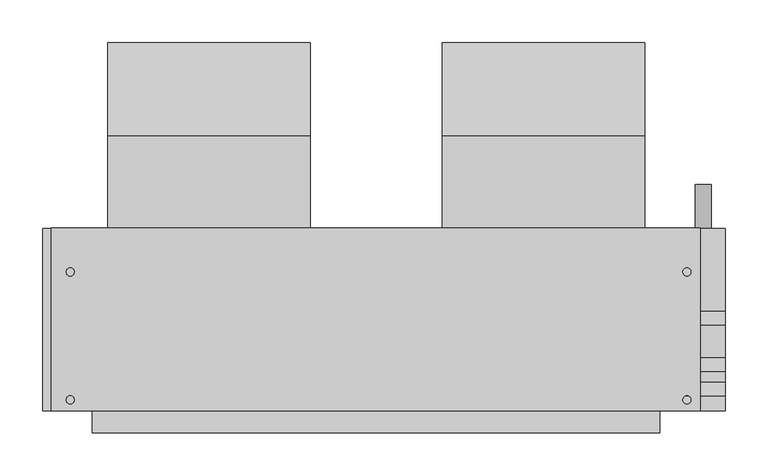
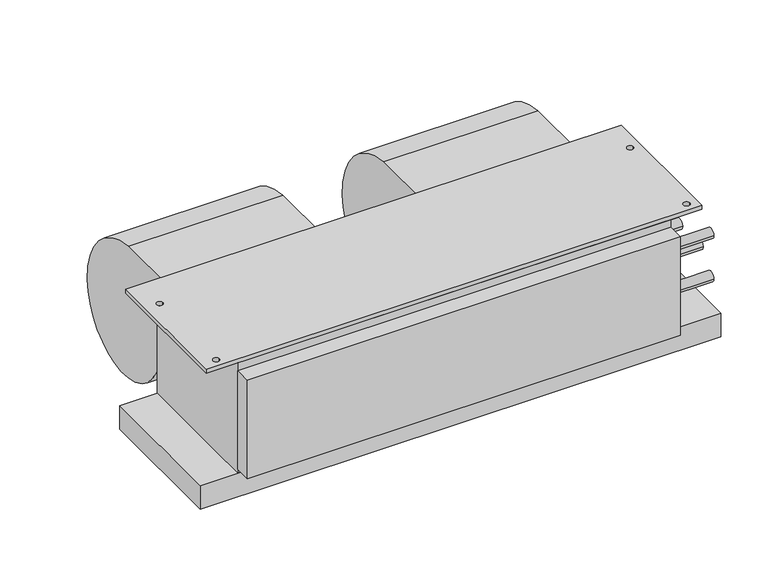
"""IFC4 building model written with IfcOpenShell, lengths in millimetres: proxy geometry, Concealed_Horizontal_Fan_Coil_Unit_-_42CAA_-_CARRIER_-_4-Pipe_RH_2022 : Size 04 - 277v/60Hz/1Ph - 4/1 Coil."""

from ifc_helpers import new_model, si_unit, point, frame, frame_2d, origin, place, context, project, spatial, polyline, circle_curve, trimmed, segment, composite_curve, outline, extrude, source, transform, mapped, element, save


def mechanical_equipment_0b4bd46c(model_context):
    return source(origin(), model_context, "Body", "SweptSolid", [
        extrude(outline(composite_curve([segment(trimmed(circle_curve(frame_2d((-33.198831, -136.0299844)), 117.3559541), [point((-23.8125, -19.05))], [point((84.1375, -138.176))], False, "CARTESIAN"), True, "CONTINUOUS"), segment(trimmed(circle_curve(frame_2d((-11.5977337, -136.4250563)), 95.7512443), [point((84.1375, -138.176))], [point((-23.8125, -231.394))], False, "CARTESIAN"), True, "CONTINUOUS"), segment(trimmed(circle_curve(frame_2d((-11.6288131, -136.6666968)), 95.5076133), [point((-23.8125, -231.394))], [point((-107.1245, -138.176))], False, "CARTESIAN"), True, "CONTINUOUS"), segment(trimmed(circle_curve(frame_2d((-126.2059828, -138.4775816)), 19.0838659), [point((-107.1245, -138.176))], [point((-119.3963373, -120.65))], True, "CARTESIAN"), True, "CONTINUOUS"), segment(polyline([(-119.3963373, -120.65), (-131.7625, -120.65), (-131.7625, -19.05), (-23.8125, -19.05)]), True, "CONTINUOUS")], self_intersect=False)), frame((229.4255, 0.0, 0.0), z_axis=(1.0, 0.0, 0.0), x_axis=(0.0, 1.0, 0.0)), (0.0, 0.0, 1.0), 235.712),
        extrude(outline(composite_curve([segment(trimmed(circle_curve(frame_2d((-33.198831, -136.0299844)), 117.3559541), [point((-23.8125, -19.05))], [point((84.1375, -138.176))], False, "CARTESIAN"), True, "CONTINUOUS"), segment(trimmed(circle_curve(frame_2d((-11.5977337, -136.4250563)), 95.7512443), [point((84.1375, -138.176))], [point((-23.8125, -231.394))], False, "CARTESIAN"), True, "CONTINUOUS"), segment(trimmed(circle_curve(frame_2d((-11.6288131, -136.6666968)), 95.5076133), [point((-23.8125, -231.394))], [point((-107.1245, -138.176))], False, "CARTESIAN"), True, "CONTINUOUS"), segment(trimmed(circle_curve(frame_2d((-126.2059828, -138.4775816)), 19.0838659), [point((-107.1245, -138.176))], [point((-119.3963373, -120.65))], True, "CARTESIAN"), True, "CONTINUOUS"), segment(polyline([(-119.3963373, -120.65), (-131.7625, -120.65), (-131.7625, -19.05), (-23.8125, -19.05)]), True, "CONTINUOUS")], self_intersect=False)), frame((-159.512, 0.0, 0.0), z_axis=(1.0, 0.0, 0.0), x_axis=(0.0, 1.0, 0.0)), (0.0, 0.0, 1.0), 235.712),
        extrude(outline(polyline([(530.225, -131.7625), (530.225, -344.4875), (-225.425, -344.4875), (-225.425, -131.7625), (530.225, -131.7625)]), holes=[composite_curve([segment(trimmed(circle_curve(frame_2d((-203.2, -182.5625)), 4.7625), [point((-207.9625, -182.5625))], [point((-198.4375, -182.5625))], True, "CARTESIAN"), True, "CONTINUOUS"), segment(trimmed(circle_curve(frame_2d((-203.2, -182.5625)), 4.7625), [point((-198.4375, -182.5625))], [point((-207.9625, -182.5625))], True, "CARTESIAN"), True, "CONTINUOUS")], self_intersect=False), composite_curve([segment(trimmed(circle_curve(frame_2d((-203.2, -331.7875)), 4.7625), [point((-207.9625, -331.7875))], [point((-198.4375, -331.7875))], True, "CARTESIAN"), True, "CONTINUOUS"), segment(trimmed(circle_curve(frame_2d((-203.2, -331.7875)), 4.7625), [point((-198.4375, -331.7875))], [point((-207.9625, -331.7875))], True, "CARTESIAN"), True, "CONTINUOUS")], self_intersect=False), composite_curve([segment(trimmed(circle_curve(frame_2d((514.35, -182.5625)), 4.7625), [point((509.5875, -182.5625))], [point((519.1125, -182.5625))], True, "CARTESIAN"), True, "CONTINUOUS"), segment(trimmed(circle_curve(frame_2d((514.35, -182.5625)), 4.7625), [point((519.1125, -182.5625))], [point((509.5875, -182.5625))], True, "CARTESIAN"), True, "CONTINUOUS")], self_intersect=False), composite_curve([segment(trimmed(circle_curve(frame_2d((514.35, -331.7875)), 4.7625), [point((509.5875, -331.7875))], [point((519.1125, -331.7875))], True, "CARTESIAN"), True, "CONTINUOUS"), segment(trimmed(circle_curve(frame_2d((514.35, -331.7875)), 4.7625), [point((519.1125, -331.7875))], [point((509.5875, -331.7875))], True, "CARTESIAN"), True, "CONTINUOUS")], self_intersect=False)]), frame((0.0, 0.0, -6.35), z_axis=(0.0, 0.0, 1.0), x_axis=(1.0, 0.0, 0.0)), (0.0, 0.0, 1.0), 6.35),
        extrude(outline(composite_curve([segment(trimmed(circle_curve(frame_2d((-209.55, 533.4)), 9.525), [point((-209.55, 523.875))], [point((-209.55, 542.925))], False, "CARTESIAN"), True, "CONTINUOUS"), segment(trimmed(circle_curve(frame_2d((-209.55, 533.4)), 9.525), [point((-209.55, 542.925))], [point((-209.55, 523.875))], False, "CARTESIAN"), True, "CONTINUOUS")], self_intersect=False)), frame((0.0, -131.7625, 0.0), z_axis=(0.0, 1.0, 0.0), x_axis=(0.0, 0.0, 1.0)), (0.0, 0.0, 1.0), 50.8),
        extrude(outline(polyline([(482.6, -369.8875), (-177.8, -369.8875), (-177.8, -344.4875), (482.6, -344.4875), (482.6, -369.8875)])), frame((0.0, 0.0, -177.8), z_axis=(0.0, 0.0, 1.0), x_axis=(1.0, 0.0, 0.0)), (0.0, 0.0, 1.0), 158.75),
        extrude(outline(polyline([(558.8, -131.7625), (558.8, -344.4875), (-234.95, -344.4875), (-234.95, -131.7625), (558.8, -131.7625)])), frame((0.0, 0.0, -222.25), z_axis=(0.0, 0.0, 1.0), x_axis=(1.0, 0.0, 0.0)), (0.0, 0.0, 1.0), 38.1),
        extrude(outline(composite_curve([segment(trimmed(circle_curve(frame_2d((-236.5375, -104.775)), 7.9375), [point((-244.475, -104.775))], [point((-228.6, -104.775))], False, "CARTESIAN"), True, "CONTINUOUS"), segment(trimmed(circle_curve(frame_2d((-236.5375, -104.775)), 7.9375), [point((-228.6, -104.775))], [point((-244.475, -104.775))], False, "CARTESIAN"), True, "CONTINUOUS")], self_intersect=False)), frame((482.6, 0.0, 0.0), z_axis=(1.0, 0.0, 0.0), x_axis=(0.0, 1.0, 0.0)), (0.0, 0.0, 1.0), 76.2),
        extrude(outline(composite_curve([segment(trimmed(circle_curve(frame_2d((-290.5125, -104.775)), 7.9375), [point((-298.45, -104.775))], [point((-282.575, -104.775))], False, "CARTESIAN"), True, "CONTINUOUS"), segment(trimmed(circle_curve(frame_2d((-290.5125, -104.775)), 7.9375), [point((-282.575, -104.775))], [point((-298.45, -104.775))], False, "CARTESIAN"), True, "CONTINUOUS")], self_intersect=False)), frame((482.6, 0.0, 0.0), z_axis=(1.0, 0.0, 0.0), x_axis=(0.0, 1.0, 0.0)), (0.0, 0.0, 1.0), 76.2),
        extrude(outline(composite_curve([segment(trimmed(circle_curve(frame_2d((-319.0875, -69.85)), 7.9375), [point((-327.025, -69.85))], [point((-311.15, -69.85))], False, "CARTESIAN"), True, "CONTINUOUS"), segment(trimmed(circle_curve(frame_2d((-319.0875, -69.85)), 7.9375), [point((-311.15, -69.85))], [point((-327.025, -69.85))], False, "CARTESIAN"), True, "CONTINUOUS")], self_intersect=False)), frame((482.6, 0.0, 0.0), z_axis=(1.0, 0.0, 0.0), x_axis=(0.0, 1.0, 0.0)), (0.0, 0.0, 1.0), 76.2),
        extrude(outline(composite_curve([segment(trimmed(circle_curve(frame_2d((-319.0875, -139.7)), 7.9375), [point((-327.025, -139.7))], [point((-311.15, -139.7))], False, "CARTESIAN"), True, "CONTINUOUS"), segment(trimmed(circle_curve(frame_2d((-319.0875, -139.7)), 7.9375), [point((-311.15, -139.7))], [point((-327.025, -139.7))], False, "CARTESIAN"), True, "CONTINUOUS")], self_intersect=False)), frame((482.6, 0.0, 0.0), z_axis=(1.0, 0.0, 0.0), x_axis=(0.0, 1.0, 0.0)), (0.0, 0.0, 1.0), 76.2),
        extrude(outline(polyline([(482.6, -344.4875), (-177.8, -344.4875), (-177.8, -131.7625), (482.6, -131.7625), (482.6, -344.4875)])), frame((0.0, 0.0, -184.15), z_axis=(0.0, 0.0, 1.0), x_axis=(1.0, 0.0, 0.0)), (0.0, 0.0, 1.0), 177.8),
    ])


if __name__ == "__main__":
    model = new_model("IFC4")
    model_context = context("Model", 3, world=origin())
    ifc_project = project(units=[si_unit("LENGTHUNIT", "METRE", prefix="MILLI")], contexts=[model_context])
    site = spatial("IfcSite", under=ifc_project)
    building = spatial("IfcBuilding", under=site)
    placement = place(None, origin())
    mechanical_equipment_shape = mechanical_equipment_0b4bd46c(model_context)
    element("IfcBuildingElementProxy", 1, Name="Concealed_Horizontal_Fan_Coil_Unit_-_42CAA_-_CARRIER_-_4-Pipe_RH_2022 : Size 04 - 277v/60Hz/1Ph - 4/1 Coil", ObjectType="Concealed_Horizontal_Fan_Coil_Unit_-_42CAA_-_CARRIER_-_4-Pipe_RH_2022 : Size 04 - 277v/60Hz/1Ph - 4/1 Coil", at=placement, inside=building, context=model_context, shape_type="MappedRepresentation", body=[
        mapped(mechanical_equipment_shape, transform((0.0, 0.0, 0.0), x_axis=(1.0, 0.0, 0.0), y_axis=(0.0, 1.0, 0.0), z_axis=(0.0, 0.0, 1.0))),
    ])
    save(model, "model.ifc")
